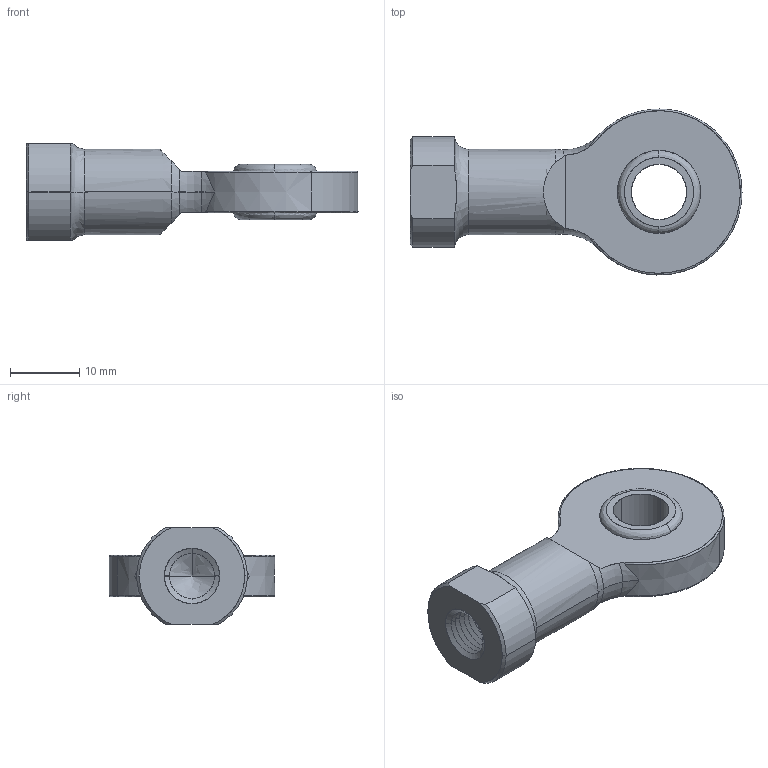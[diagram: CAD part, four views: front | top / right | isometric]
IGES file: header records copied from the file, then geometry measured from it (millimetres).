
Start section: SolidWorks IGES file using analytic representation for surfaces
Bounding box: 48 x 24 x 14 mm (x, y, z)
Surface area: 3415.9 mm2 (no closed solid volume)
Topology: 0 solids, 0 shells, 166 faces, 1228 edges, 1225 vertices
Faces by surface type: revolution 132, bspline 34
